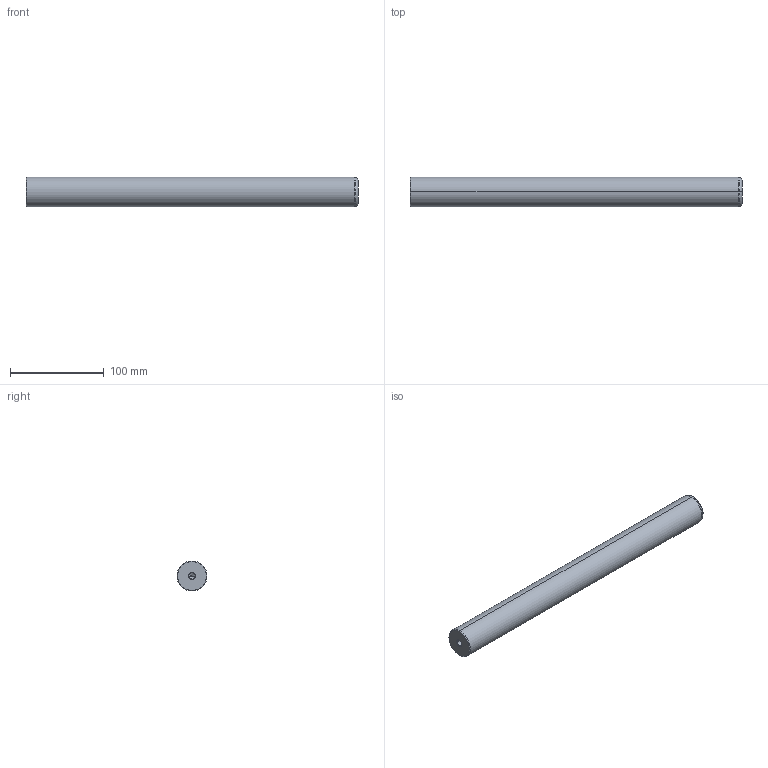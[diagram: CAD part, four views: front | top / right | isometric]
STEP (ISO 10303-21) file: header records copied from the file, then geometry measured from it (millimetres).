
FILE_DESCRIPTION(('CATIA V5 STEP Exchange'),'2;1');
FILE_NAME('C:\Users\Utente\Desktop\IO LAVORO\3D X SITO CF\X SITO\720\720-32x355.stp','2021-01-01T12:12:34+00:00',('none'),('none'),'CATIA Version 5 Release 20 GA (IN-10)','CATIA V5 STEP AP203','none');
FILE_SCHEMA(('CONFIG_CONTROL_DESIGN'));
Length unit declared in the file: millimetre
Products named in the file (1): 720-32x355
Bounding box: 355 x 32 x 32 mm (x, y, z)
Volume: 283455.4 mm3; surface area: 38081.2 mm2
Topology: 1 solids, 1 shells, 22 faces, 62 edges, 40 vertices
Faces by surface type: cone 12, cylinder 6, plane 2, torus 2
Entity records: 806 total; most frequent: CARTESIAN_POINT 229, ORIENTED_EDGE 116, DIRECTION 93, EDGE_CURVE 58, AXIS2_PLACEMENT_3D 54, VERTEX_POINT 40, CIRCLE 31, EDGE_LOOP 24
